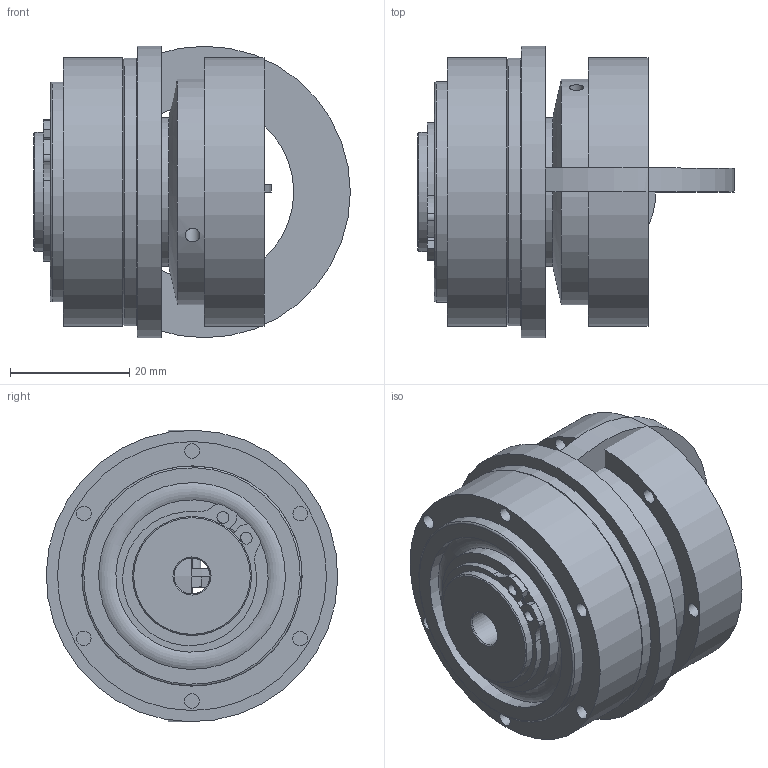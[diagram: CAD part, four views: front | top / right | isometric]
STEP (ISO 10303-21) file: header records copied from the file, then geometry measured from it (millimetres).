
FILE_DESCRIPTION( ( 'Unknown' ), '1' );
FILE_NAME( 'C:/Dokumente und Einstellungen/Sven/Desktop/hp kbk/KBK L-I-10.stp', 'Unknown', ( 'Unknown' ), ( 'Unknown' ), 'XStep 1.0', 'Unknown', ' ' );
FILE_SCHEMA( ( 'automotive_design' ) );
Length unit declared in the file: millimetre
Products named in the file (12): Assem1; Assem2; ball_bearing_-_61904_0_01; ball_bearing_-_61904_0_02; ball_bearing_-_61904_0_03; Stellring 10; Druckring 10; a_20; KBK L-I-10 Grundkörper; din_en_24017_m3x12; Flansch L-LL10; Konusbuchse KBK 10
Bounding box: 53.2 x 48.99 x 49 mm (x, y, z)
Volume: 75074.5 mm3; surface area: 58612.1 mm2
Topology: 26 solids, 26 shells, 387 faces, 824 edges, 518 vertices
Faces by surface type: plane 171, cylinder 120, cone 66, torus 30
Full cylindrical faces by diameter (mm): 2 x4, 2.459 x28, 3 x5, 3.1 x8, 4.57 x5, 6 x4, 16 x2, 19 x2, 20 x7, 24 x4, 25 x4, 25.6 x6, 29 x2, 29.993 x2, 31.4 x6, 37 x5, 38 x2, 40 x2, 45 x2, 45.2 x2, 49 x2
Entity records: 4115 total; most frequent: CARTESIAN_POINT 805, DIRECTION 704, ORIENTED_EDGE 474, AXIS2_PLACEMENT_3D 324, EDGE_LOOP 266, EDGE_CURVE 237, FACE_OUTER_BOUND 206, VERTEX_POINT 185
